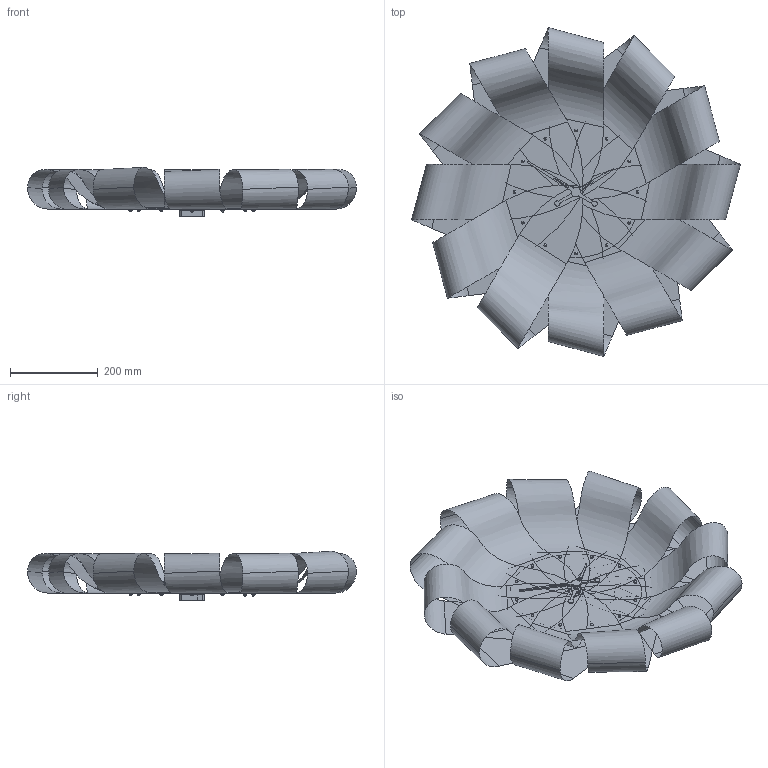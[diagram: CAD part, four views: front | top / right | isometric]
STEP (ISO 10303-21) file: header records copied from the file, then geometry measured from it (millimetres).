
FILE_DESCRIPTION (( 'STEP AP214' ), '1' );
FILE_NAME ('BRISA XL.STEP', '2022-02-21T11:42:57', ( '' ), ( '' ), 'SwSTEP 2.0', 'SolidWorks 2016', '' );
FILE_SCHEMA (( 'AUTOMOTIVE_DESIGN' ));
Length unit declared in the file: millimetre
Products named in the file (23): TUERCA_CIEGA_M4; ROSCA_MECANISMO_RELOJ_FLOR; CHAPA MADERA CURVADA BRISA XL 10; BRISA XL; CHAPA_HIERRO_INTERIOR_CICLO_GRANDE; BOLITA_UNION_CHAPAS; AGUJA_HORARIA_NOGAL_BRISA_XL; AGUJA_MINUTERA_NOGAL_RELOJ_CICLO_GRANDE; Pasante; CHAPA MADERA CURVADA BRISA XL 7; CHAPA MADERA CURVADA BRISA XL 12; AGUJA_HORARIA_NOGAL_RELOJ_CICLO_GRANDE; MECANISMO_SINGULAR; CHAPA MADERA CURVADA BRISA XL 8; Tuerca 1.5; CHAPA MADERA CURVADA BRISA XL; CHAPA MADERA CURVADA BRISA XL 3; CHAPA MADERA CURVADA BRISA XL 5; CHAPA MADERA CURVADA BRISA XL 11; CHAPA MADERA CURVADA BRISA XL 9; CHAPA MADERA CURVADA BRISA XL 6; CHAPA MADERA CURVADA BRISA XL 4; CHAPA MADERA CURVADA BRISA XL 2
Assembly tree (44 placements, depth 3):
  BRISA XL
    CHAPA_HIERRO_INTERIOR_CICLO_GRANDE
    CHAPA MADERA CURVADA BRISA XL
    CHAPA MADERA CURVADA BRISA XL 2
    CHAPA MADERA CURVADA BRISA XL 3
    CHAPA MADERA CURVADA BRISA XL 4
    CHAPA MADERA CURVADA BRISA XL 5
    CHAPA MADERA CURVADA BRISA XL 6
    CHAPA MADERA CURVADA BRISA XL 7
    CHAPA MADERA CURVADA BRISA XL 8
    CHAPA MADERA CURVADA BRISA XL 9
    CHAPA MADERA CURVADA BRISA XL 10
    CHAPA MADERA CURVADA BRISA XL 11
    CHAPA MADERA CURVADA BRISA XL 12
    BOLITA_UNION_CHAPAS  x12
    ROSCA_MECANISMO_RELOJ_FLOR
    MECANISMO_SINGULAR
    TUERCA_CIEGA_M4  x12
    AGUJA_MINUTERA_NOGAL_RELOJ_CICLO_GRANDE
    AGUJA_HORARIA_NOGAL_BRISA_XL
      AGUJA_HORARIA_NOGAL_RELOJ_CICLO_GRANDE
      Pasante
      Tuerca 1.5
Bounding box: 750 x 749.98 x 112.23 mm (x, y, z)
Volume: 121932.6 mm3; surface area: 1288741.1 mm2
Topology: 31 solids, 67 shells, 430 faces, 1149 edges, 803 vertices
Faces by surface type: plane 200, cylinder 147, sphere 50, bspline 23, torus 8, cone 2
Entity records: 11133 total; most frequent: CARTESIAN_POINT 4067, DIRECTION 1328, ORIENTED_EDGE 1072, EDGE_CURVE 619, AXIS2_PLACEMENT_3D 532, VERTEX_POINT 455, EDGE_LOOP 284, CIRCLE 274
